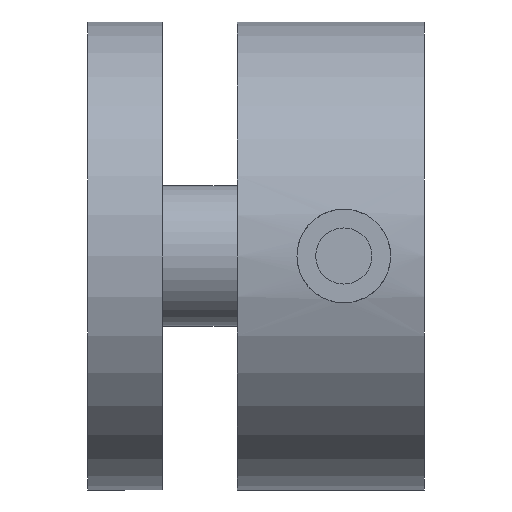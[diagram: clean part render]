
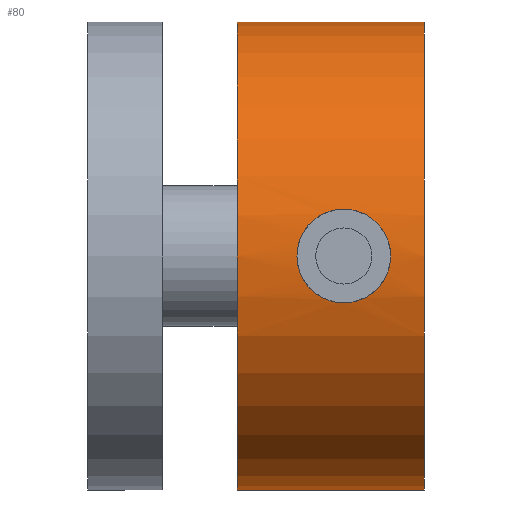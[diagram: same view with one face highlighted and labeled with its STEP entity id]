
A CAD part, left-side view. The second image highlights one B-rep face of the part: STEP entity #80.
In plain terms, the highlighted cylindrical face has radius 12.5 mm (diameter 25 mm), a partial arc.
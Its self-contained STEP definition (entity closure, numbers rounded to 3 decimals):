
#11 = AXIS2_PLACEMENT_3D ( 'NONE', #798, #267, #725 ) ;
#15 = CARTESIAN_POINT ( 'NONE',  ( -12.44, 2.126, -1.259 ) ) ;
#17 = CARTESIAN_POINT ( 'NONE',  ( -12.475, 1.938, 0.806 ) ) ;
#25 = CARTESIAN_POINT ( 'NONE',  ( -12.311, 5.564, 2.169 ) ) ;
#38 = B_SPLINE_CURVE_WITH_KNOTS ( 'NONE', 3,
 ( #769, #474, #492, #262, #25, #548, #412, #858, #853, #627, #172, #336, #246, #625, #90, #874, #400, #876, #943, #489, #40, #563, #111, #641, #955, #794, #187, #775 ),
 .UNSPECIFIED., .F., .F.,
 ( 4, 2, 2, 2, 2, 2, 2, 2, 2, 2, 2, 2, 2, 4 ),
 ( 0.008, 0.009, 0.009, 0.01, 0.01, 0.011, 0.012, 0.012, 0.013, 0.013, 0.014, 0.015, 0.015, 0.016 ),
 .UNSPECIFIED. ) ;
#40 = CARTESIAN_POINT ( 'NONE',  ( -12.391, 6.194, -1.652 ) ) ;
#54 = DIRECTION ( 'NONE',  ( 0., 0., -1. ) ) ;
#68 = VECTOR ( 'NONE', #796, 1000. ) ;
#74 = CARTESIAN_POINT ( 'NONE',  ( -12.391, 2.426, 1.652 ) ) ;
#80 = ADVANCED_FACE ( 'NONE', ( #387, #409 ), #788, .T. ) ;
#83 = CARTESIAN_POINT ( 'NONE',  ( -12.251, 3.982, -2.484 ) ) ;
#87 = CARTESIAN_POINT ( 'NONE',  ( -12.264, 3.659, 2.419 ) ) ;
#90 = CARTESIAN_POINT ( 'NONE',  ( -12.497, 6.794, -0.326 ) ) ;
#111 = CARTESIAN_POINT ( 'NONE',  ( -12.309, 5.571, -2.183 ) ) ;
#125 = VERTEX_POINT ( 'NONE', #965 ) ;
#142 = EDGE_CURVE ( 'NONE', #710, #435, #714, .T. ) ;
#153 = CARTESIAN_POINT ( 'NONE',  ( -12.475, 1.939, -0.808 ) ) ;
#159 = CARTESIAN_POINT ( 'NONE',  ( -12.341, 2.785, 1.987 ) ) ;
#170 = ORIENTED_EDGE ( 'NONE', *, *, #831, .F. ) ;
#172 = CARTESIAN_POINT ( 'NONE',  ( -12.451, 6.556, 1.111 ) ) ;
#187 = CARTESIAN_POINT ( 'NONE',  ( -12.247, 4.476, -2.5 ) ) ;
#191 = EDGE_CURVE ( 'NONE', #710, #557, #693, .T. ) ;
#197 = ORIENTED_EDGE ( 'NONE', *, *, #232, .F. ) ;
#221 = EDGE_LOOP ( 'NONE', ( #170, #319 ) ) ;
#224 = CARTESIAN_POINT ( 'NONE',  ( -12.438, 2.142, 1.255 ) ) ;
#232 = EDGE_CURVE ( 'NONE', #557, #590, #786, .T. ) ;
#238 = CARTESIAN_POINT ( 'NONE',  ( -12.497, 1.826, 0.329 ) ) ;
#244 = CARTESIAN_POINT ( 'NONE',  ( 0., 0., 12.5 ) ) ;
#246 = CARTESIAN_POINT ( 'NONE',  ( -12.5, 6.81, 0.331 ) ) ;
#261 = DIRECTION ( 'NONE',  ( 0., -1., 0. ) ) ;
#262 = CARTESIAN_POINT ( 'NONE',  ( -12.297, 5.418, 2.247 ) ) ;
#267 = DIRECTION ( 'NONE',  ( 0., -1., 0. ) ) ;
#277 = CARTESIAN_POINT ( 'NONE',  ( 0., 0., 12.5 ) ) ;
#310 = CARTESIAN_POINT ( 'NONE',  ( -12.484, 1.891, -0.65 ) ) ;
#311 = AXIS2_PLACEMENT_3D ( 'NONE', #554, #261, #54 ) ;
#315 = CARTESIAN_POINT ( 'NONE',  ( -12.358, 2.657, -1.882 ) ) ;
#319 = ORIENTED_EDGE ( 'NONE', *, *, #538, .F. ) ;
#330 = ORIENTED_EDGE ( 'NONE', *, *, #142, .T. ) ;
#336 = CARTESIAN_POINT ( 'NONE',  ( -12.486, 6.745, 0.656 ) ) ;
#358 = AXIS2_PLACEMENT_3D ( 'NONE', #670, #444, #820 ) ;
#385 = CARTESIAN_POINT ( 'NONE',  ( -12.5, 1.81, 0.163 ) ) ;
#387 = FACE_OUTER_BOUND ( 'NONE', #882, .T. ) ;
#390 = CARTESIAN_POINT ( 'NONE',  ( -12.407, 2.312, -1.537 ) ) ;
#400 = CARTESIAN_POINT ( 'NONE',  ( -12.475, 6.682, -0.806 ) ) ;
#409 = FACE_BOUND ( 'NONE', #221, .T. ) ;
#412 = CARTESIAN_POINT ( 'NONE',  ( -12.358, 5.962, 1.884 ) ) ;
#435 = VERTEX_POINT ( 'NONE', #616 ) ;
#444 = DIRECTION ( 'NONE',  ( 0., -1., 0. ) ) ;
#459 = CARTESIAN_POINT ( 'NONE',  ( -12.247, 4.147, 2.5 ) ) ;
#462 = CARTESIAN_POINT ( 'NONE',  ( -12.247, 4.145, -2.5 ) ) ;
#467 = CARTESIAN_POINT ( 'NONE',  ( -12.497, 1.826, -0.327 ) ) ;
#468 = LINE ( 'NONE', #565, #705 ) ;
#474 = CARTESIAN_POINT ( 'NONE',  ( -12.247, 4.637, 2.5 ) ) ;
#489 = CARTESIAN_POINT ( 'NONE',  ( -12.408, 6.299, -1.524 ) ) ;
#492 = CARTESIAN_POINT ( 'NONE',  ( -12.261, 4.967, 2.434 ) ) ;
#538 = EDGE_CURVE ( 'NONE', #545, #125, #38, .T. ) ;
#540 = CARTESIAN_POINT ( 'NONE',  ( -12.484, 1.891, 0.65 ) ) ;
#541 = CARTESIAN_POINT ( 'NONE',  ( -12.273, 3.504, 2.372 ) ) ;
#545 = VERTEX_POINT ( 'NONE', #932 ) ;
#548 = CARTESIAN_POINT ( 'NONE',  ( -12.341, 5.836, 1.987 ) ) ;
#550 = EDGE_CURVE ( 'NONE', #435, #590, #468, .T. ) ;
#554 = CARTESIAN_POINT ( 'NONE',  ( 0., 0., 0. ) ) ;
#557 = VERTEX_POINT ( 'NONE', #244 ) ;
#563 = CARTESIAN_POINT ( 'NONE',  ( -12.342, 5.849, -1.997 ) ) ;
#565 = CARTESIAN_POINT ( 'NONE',  ( 0., 0., -12.5 ) ) ;
#590 = VERTEX_POINT ( 'NONE', #812 ) ;
#602 = ORIENTED_EDGE ( 'NONE', *, *, #550, .T. ) ;
#614 = CARTESIAN_POINT ( 'NONE',  ( -12.264, 3.662, -2.42 ) ) ;
#616 = CARTESIAN_POINT ( 'NONE',  ( 0., 10., -12.5 ) ) ;
#618 = CARTESIAN_POINT ( 'NONE',  ( -12.247, 4.31, 2.5 ) ) ;
#625 = CARTESIAN_POINT ( 'NONE',  ( -12.5, 6.81, -0.164 ) ) ;
#627 = CARTESIAN_POINT ( 'NONE',  ( -12.438, 6.479, 1.255 ) ) ;
#641 = CARTESIAN_POINT ( 'NONE',  ( -12.273, 5.12, -2.371 ) ) ;
#670 = CARTESIAN_POINT ( 'NONE',  ( 0., 0., 0. ) ) ;
#674 = CARTESIAN_POINT ( 'NONE',  ( 0., 10., 12.5 ) ) ;
#682 = CARTESIAN_POINT ( 'NONE',  ( -12.5, 1.81, -0.164 ) ) ;
#685 = CARTESIAN_POINT ( 'NONE',  ( -12.407, 2.323, 1.525 ) ) ;
#690 = CARTESIAN_POINT ( 'NONE',  ( -12.297, 3.2, -2.246 ) ) ;
#693 = LINE ( 'NONE', #277, #68 ) ;
#694 = CARTESIAN_POINT ( 'NONE',  ( -12.452, 2.064, 1.109 ) ) ;
#705 = VECTOR ( 'NONE', #792, 1000. ) ;
#710 = VERTEX_POINT ( 'NONE', #674 ) ;
#714 = CIRCLE ( 'NONE', #11, 12.5 ) ;
#725 = DIRECTION ( 'NONE',  ( 0., 0., -1. ) ) ;
#750 = CARTESIAN_POINT ( 'NONE',  ( -12.311, 3.055, 2.168 ) ) ;
#764 = CARTESIAN_POINT ( 'NONE',  ( -12.341, 2.785, -1.988 ) ) ;
#769 = CARTESIAN_POINT ( 'NONE',  ( -12.247, 4.31, 2.5 ) ) ;
#775 = CARTESIAN_POINT ( 'NONE',  ( -12.247, 4.31, -2.5 ) ) ;
#786 = CIRCLE ( 'NONE', #358, 12.5 ) ;
#788 = CYLINDRICAL_SURFACE ( 'NONE', #311, 12.5 ) ;
#792 = DIRECTION ( 'NONE',  ( 0., -1., 0. ) ) ;
#794 = CARTESIAN_POINT ( 'NONE',  ( -12.251, 4.639, -2.484 ) ) ;
#796 = DIRECTION ( 'NONE',  ( 0., -1., 0. ) ) ;
#798 = CARTESIAN_POINT ( 'NONE',  ( 0., 10., 0. ) ) ;
#812 = CARTESIAN_POINT ( 'NONE',  ( 0., 0., -12.5 ) ) ;
#820 = DIRECTION ( 'NONE',  ( 0., 0., -1. ) ) ;
#831 = EDGE_CURVE ( 'NONE', #125, #545, #844, .T. ) ;
#837 = CARTESIAN_POINT ( 'NONE',  ( -12.273, 3.503, -2.372 ) ) ;
#839 = CARTESIAN_POINT ( 'NONE',  ( -12.297, 3.201, 2.247 ) ) ;
#841 = CARTESIAN_POINT ( 'NONE',  ( -12.358, 2.659, 1.884 ) ) ;
#844 = B_SPLINE_CURVE_WITH_KNOTS ( 'NONE', 3,
 ( #927, #462, #83, #614, #837, #690, #930, #764, #315, #390, #15, #153, #310, #467, #682, #385, #238, #540, #17, #694, #224, #685, #74, #841, #159, #750, #839, #541, #87, #922, #459, #618 ),
 .UNSPECIFIED., .F., .F.,
 ( 4, 2, 2, 2, 2, 2, 2, 2, 2, 2, 2, 2, 2, 2, 2, 4 ),
 ( 0., 0., 0.001, 0.001, 0.002, 0.003, 0.003, 0.004, 0.004, 0.005, 0.005, 0.006, 0.006, 0.007, 0.007, 0.008 ),
 .UNSPECIFIED. ) ;
#853 = CARTESIAN_POINT ( 'NONE',  ( -12.407, 6.298, 1.525 ) ) ;
#858 = CARTESIAN_POINT ( 'NONE',  ( -12.391, 6.192, 1.654 ) ) ;
#860 = ORIENTED_EDGE ( 'NONE', *, *, #191, .F. ) ;
#874 = CARTESIAN_POINT ( 'NONE',  ( -12.484, 6.731, -0.647 ) ) ;
#876 = CARTESIAN_POINT ( 'NONE',  ( -12.452, 6.557, -1.108 ) ) ;
#882 = EDGE_LOOP ( 'NONE', ( #860, #330, #602, #197 ) ) ;
#922 = CARTESIAN_POINT ( 'NONE',  ( -12.251, 3.981, 2.484 ) ) ;
#927 = CARTESIAN_POINT ( 'NONE',  ( -12.247, 4.31, -2.5 ) ) ;
#930 = CARTESIAN_POINT ( 'NONE',  ( -12.311, 3.057, -2.169 ) ) ;
#932 = CARTESIAN_POINT ( 'NONE',  ( -12.247, 4.31, 2.5 ) ) ;
#943 = CARTESIAN_POINT ( 'NONE',  ( -12.438, 6.48, -1.252 ) ) ;
#955 = CARTESIAN_POINT ( 'NONE',  ( -12.264, 4.962, -2.419 ) ) ;
#965 = CARTESIAN_POINT ( 'NONE',  ( -12.247, 4.31, -2.5 ) ) ;
